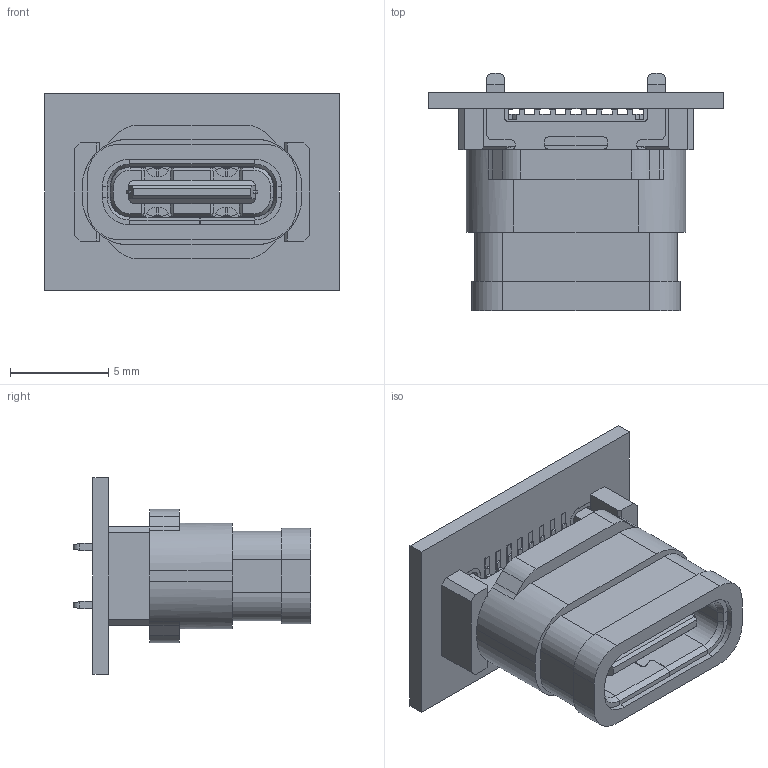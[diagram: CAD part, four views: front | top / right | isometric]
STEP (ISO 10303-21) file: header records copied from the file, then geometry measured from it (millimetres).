
FILE_DESCRIPTION((''),'2;1');
FILE_NAME('16_ASM','2022-06-06T',('888'),(''),'PRO/ENGINEER BY PARAMETRIC TECHNOLOGY CORPORATION, 2010480','PRO/ENGINEER BY PARAMETRIC TECHNOLOGY CORPORATION, 2010480','');
FILE_SCHEMA(('AUTOMOTIVE_DESIGN_CC2 { 1 2 10303 214 -1 1 5 2 }'));
Length unit declared in the file: millimetre
Products named in the file (4): 24PIN; GUEIJIAO; PCB; 16_ASM
Assembly tree (3 placements, depth 2):
  16_ASM
    24PIN
    GUEIJIAO
    PCB
Bounding box: 15 x 12.1 x 10 mm (x, y, z)
Volume: 531.9 mm3; surface area: 1605.5 mm2
Topology: 3 solids, 67 shells, 1970 faces, 5284 edges, 3450 vertices
Faces by surface type: plane 1563, cylinder 385, cone 22
Entity records: 61772 total; most frequent: CARTESIAN_POINT 11427, ORIENTED_EDGE 10568, DIRECTION 9789, EDGE_CURVE 5284, VECTOR 4373, LINE 4373, VERTEX_POINT 3450, AXIS2_PLACEMENT_3D 2708
